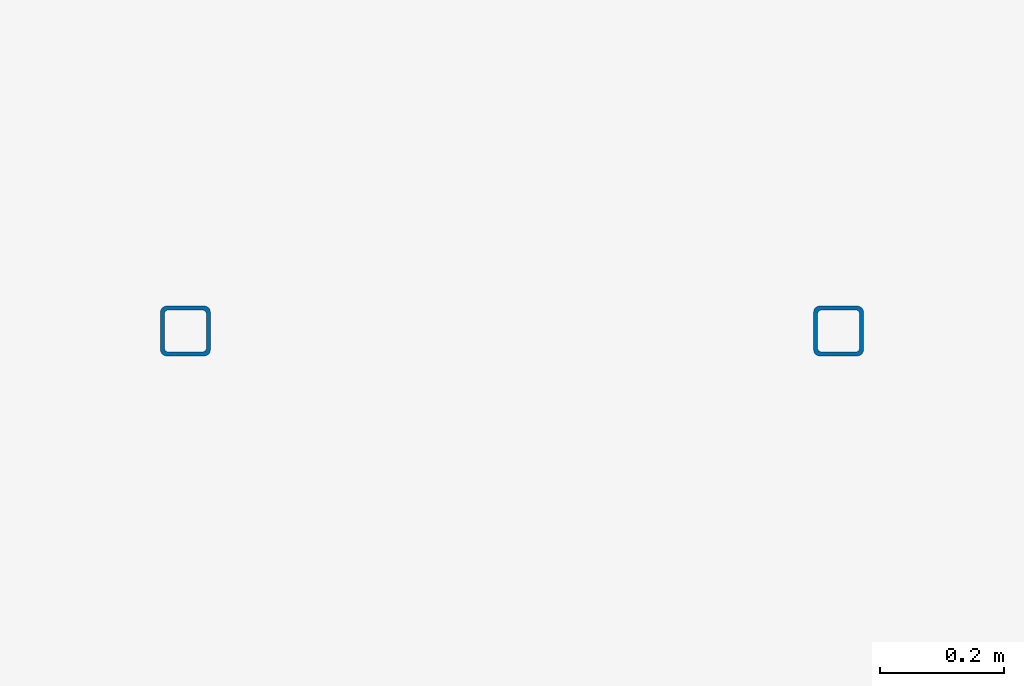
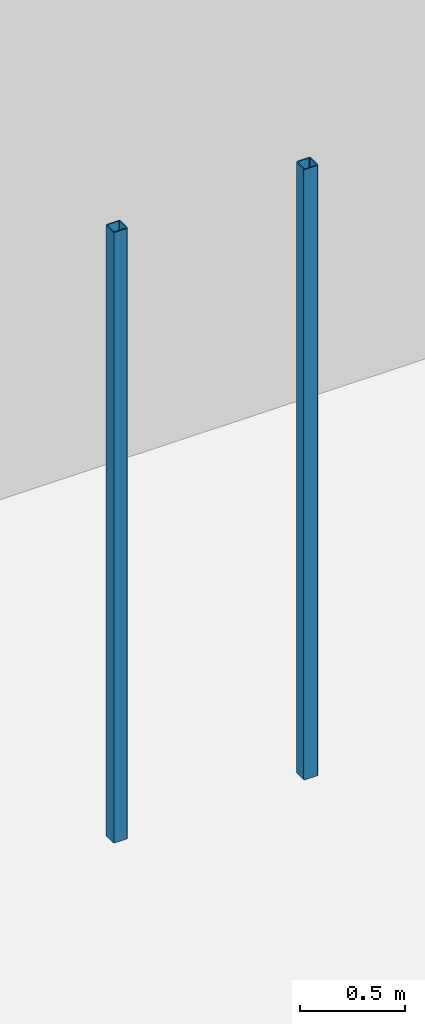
# One storey, part 7 of 34: 2 columns.
"""IFC2X3 building model written with IfcOpenShell, lengths in millimetres."""

from ifc_helpers import new_model, entity, si_unit, converted_unit, derived_unit, direction, frame, frame_2d, origin, place, context, subcontext, project, spatial, polyline, circle_curve, parameter, trimmed, segment, composite_curve, outline, extrude, source, transform, mapped, material, type_object, type_shapes, element, save


model = new_model("IFC2X3")

# Units and contexts
model_context = context("Model", 3, precision=0.01, world=origin(), true_north=direction((6.12303176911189e-17, 1.0)))
body_context = subcontext(model_context, "Body", "Model", "MODEL_VIEW")
ifc_project = project(units=[si_unit("LENGTHUNIT", "METRE", prefix="MILLI"), si_unit("AREAUNIT", "SQUARE_METRE", prefix="MILLI"), si_unit("VOLUMEUNIT", "CUBIC_METRE"), converted_unit("PLANEANGLEUNIT", "DEGREE", entity("IfcRatioMeasure", 0.0174532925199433), si_unit("PLANEANGLEUNIT", "RADIAN"), dimensions=[0, 0, 0, 0, 0, 0, 0]), si_unit("MASSUNIT", "GRAM", prefix="KILO"), derived_unit("MASSDENSITYUNIT", [(si_unit("MASSUNIT", "GRAM", prefix="KILO"), 1), (si_unit("LENGTHUNIT", "METRE"), -3)]), derived_unit("MOMENTOFINERTIAUNIT", [(si_unit("LENGTHUNIT", "METRE"), 4)]), si_unit("TIMEUNIT", "SECOND"), si_unit("FREQUENCYUNIT", "HERTZ"), si_unit("THERMODYNAMICTEMPERATUREUNIT", "DEGREE_CELSIUS"), derived_unit("THERMALTRANSMITTANCEUNIT", [(si_unit("MASSUNIT", "GRAM", prefix="KILO"), 1), (si_unit("THERMODYNAMICTEMPERATUREUNIT", "KELVIN"), -1), (si_unit("TIMEUNIT", "SECOND"), -3)]), derived_unit("VOLUMETRICFLOWRATEUNIT", [(si_unit("LENGTHUNIT", "METRE"), 3), (si_unit("TIMEUNIT", "SECOND"), -1)]), si_unit("ELECTRICCURRENTUNIT", "AMPERE"), si_unit("ELECTRICVOLTAGEUNIT", "VOLT"), si_unit("POWERUNIT", "WATT"), si_unit("FORCEUNIT", "NEWTON", prefix="KILO"), si_unit("ILLUMINANCEUNIT", "LUX"), si_unit("LUMINOUSFLUXUNIT", "LUMEN"), si_unit("LUMINOUSINTENSITYUNIT", "CANDELA"), derived_unit("USERDEFINED", [(si_unit("MASSUNIT", "GRAM", prefix="KILO"), -1), (si_unit("LENGTHUNIT", "METRE"), -2), (si_unit("TIMEUNIT", "SECOND"), 3), (si_unit("LUMINOUSFLUXUNIT", "LUMEN"), 1)]), derived_unit("LINEARVELOCITYUNIT", [(si_unit("LENGTHUNIT", "METRE"), 1), (si_unit("TIMEUNIT", "SECOND"), -1)]), si_unit("PRESSUREUNIT", "PASCAL"), derived_unit("USERDEFINED", [(si_unit("LENGTHUNIT", "METRE"), -2), (si_unit("MASSUNIT", "GRAM", prefix="KILO"), 1), (si_unit("TIMEUNIT", "SECOND"), -2)]), derived_unit("LINEARFORCEUNIT", [(si_unit("MASSUNIT", "GRAM", prefix="KILO"), 1), (si_unit("LENGTHUNIT", "METRE"), 1), (si_unit("TIMEUNIT", "SECOND"), -2), (si_unit("LENGTHUNIT", "METRE"), -1)]), derived_unit("PLANARFORCEUNIT", [(si_unit("MASSUNIT", "GRAM", prefix="KILO"), 1), (si_unit("LENGTHUNIT", "METRE"), 1), (si_unit("TIMEUNIT", "SECOND"), -2), (si_unit("LENGTHUNIT", "METRE"), -2)])], contexts=[model_context])

# Site, building, storey
site_placement = place(None, origin())
site = spatial("IfcSite", under=ifc_project, at=site_placement, Name="Theater aan de Parade", CompositionType="ELEMENT")
building_placement = place(site_placement, origin())
building = spatial("IfcBuilding", under=site, at=building_placement, Name="Theater aan de Parade", CompositionType="ELEMENT")
storey_placement = place(building_placement, frame((0.0, 0.0, 3.49116848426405e-09)))
storey = spatial("IfcBuildingStorey", under=building, at=storey_placement, Name="00 begane grond", CompositionType="ELEMENT", Elevation=3.49116848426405e-09)

# Columns
ifc_material = material(Name="00_PBT_MAT_staal_S355")
column_type = type_object("IfcColumnType", Name="28_PBT_SC_staal_koker:S355_K80x80x6.3", PredefinedType="COLUMN", material=ifc_material)
shared_shape = source(origin(), body_context, "Body", "SweptSolid", [
    extrude(outline(composite_curve([segment(trimmed(circle_curve(frame_2d((-30.55, -30.55), x_axis=(1.0, 0.0)), 9.45), [parameter(180.0)], [parameter(270.0)], True, "PARAMETER"), True, "CONTINUOUS"), segment(polyline([(-30.55, -40.0), (30.55, -40.0)]), True, "CONTINUOUS"), segment(trimmed(circle_curve(frame_2d((30.55, -30.55), x_axis=(1.0, 0.0)), 9.45), [parameter(270.0)], [parameter(5.08888749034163e-14)], True, "PARAMETER"), True, "CONTINUOUS"), segment(polyline([(40.0, -30.55), (40.0, 30.55)]), True, "CONTINUOUS"), segment(trimmed(circle_curve(frame_2d((30.55, 30.55), x_axis=(1.0, 0.0)), 9.45), [parameter(3.56222124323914e-13)], [parameter(90.0000000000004)], True, "PARAMETER"), True, "CONTINUOUS"), segment(polyline([(30.55, 40.0), (-30.55, 40.0)]), True, "CONTINUOUS"), segment(trimmed(circle_curve(frame_2d((-30.55, 30.55), x_axis=(1.0, 0.0)), 9.45), [parameter(90.0000000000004)], [parameter(180.0)], True, "PARAMETER"), True, "CONTINUOUS"), segment(polyline([(-40.0, 30.55), (-40.0, -30.55)]), True, "CONTINUOUS")], self_intersect=False), holes=[composite_curve([segment(trimmed(circle_curve(frame_2d((27.4, 27.4), x_axis=(1.0, 0.0)), 6.3), [parameter(0.0)], [parameter(90.0000000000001)], True, "PARAMETER"), False, "CONTINUOUS"), segment(polyline([(33.7, 27.4), (33.7, -27.4)]), True, "CONTINUOUS"), segment(trimmed(circle_curve(frame_2d((27.4, -27.4), x_axis=(1.0, 0.0)), 6.3), [parameter(270.0)], [parameter(360.0)], True, "PARAMETER"), False, "CONTINUOUS"), segment(polyline([(27.4, -33.7), (-27.4, -33.7)]), True, "CONTINUOUS"), segment(trimmed(circle_curve(frame_2d((-27.4, -27.4), x_axis=(1.0, 0.0)), 6.3), [parameter(180.0)], [parameter(270.0)], True, "PARAMETER"), False, "CONTINUOUS"), segment(polyline([(-33.7, -27.4), (-33.7, 27.4)]), True, "CONTINUOUS"), segment(trimmed(circle_curve(frame_2d((-27.4, 27.4), x_axis=(1.0, 0.0)), 6.3), [parameter(89.9999999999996)], [parameter(180.0)], True, "PARAMETER"), False, "CONTINUOUS"), segment(polyline([(-27.4, 33.7), (27.4, 33.7)]), True, "CONTINUOUS")], self_intersect=False)]), frame((0.0, 0.0, 960.0), z_axis=(0.0, 0.0, 1.0), x_axis=(-1.0, 0.0, 0.0)), (0.0, 0.0, 1.0), 3559.99999999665),
])
type_shapes(column_type, [shared_shape])
for number, where in (
    (1, (63167.7650192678, 46551.8631171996, -3.49116848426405e-09)),
    (2, (62117.7650192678, 46551.8631171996, -3.49116848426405e-09)),
):
    element("IfcColumn", number, at=place(storey_placement, frame(where)), inside=storey, type_object=column_type, material=ifc_material, Name="28_PBT_SC_staal_koker:S355_K80x80x6.3", ObjectType="28_PBT_SC_staal_koker:S355_K80x80x6.3", context=body_context, shape_type="MappedRepresentation", body=[
        mapped(shared_shape, transform((0.0, 0.0, 0.0), scale=1.0)),
    ])

save(model, "model.ifc")
